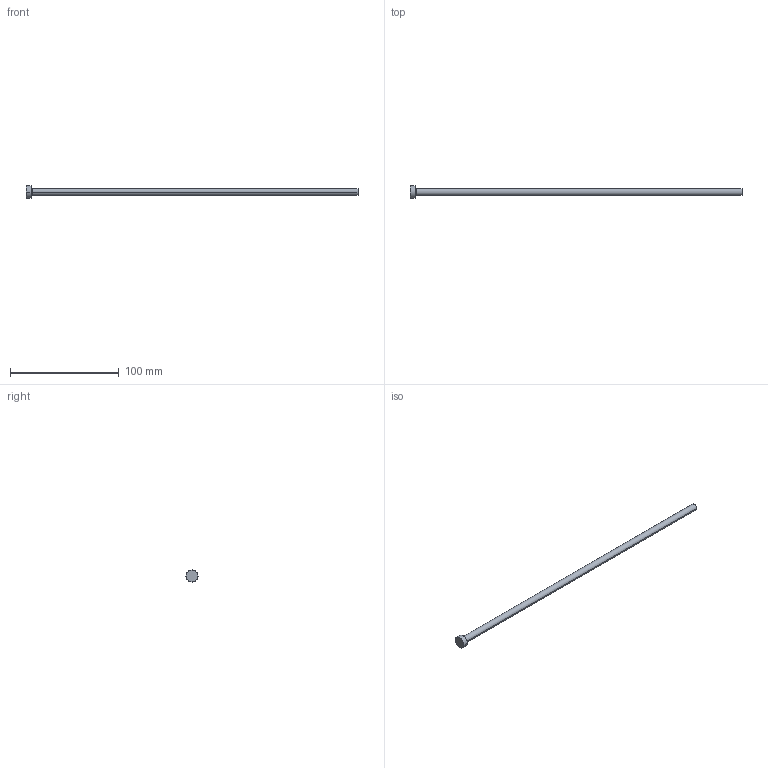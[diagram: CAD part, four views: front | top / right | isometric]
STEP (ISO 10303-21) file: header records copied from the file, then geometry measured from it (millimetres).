
FILE_DESCRIPTION (( 'STEP AP214' ), '1' );
FILE_NAME ('P17-12.STEP', '2020-03-11T18:41:28', ( '' ), ( '' ), 'SwSTEP 2.0', 'SolidWorks 2018', '' );
FILE_SCHEMA (( 'AUTOMOTIVE_DESIGN' ));
Length unit declared in the file: inch
Products named in the file (1): P17-12
Bounding box: 304.8 x 11.11 x 11.11 mm (x, y, z)
Volume: 9943.3 mm3; surface area: 6328.1 mm2
Topology: 1 solids, 1 shells, 13 faces, 24 edges, 14 vertices
Faces by surface type: cone 4, cylinder 4, plane 3, torus 2
Entity records: 366 total; most frequent: DIRECTION 68, CARTESIAN_POINT 52, ORIENTED_EDGE 48, AXIS2_PLACEMENT_3D 30, EDGE_CURVE 24, CIRCLE 16, EDGE_LOOP 14, VERTEX_POINT 14
